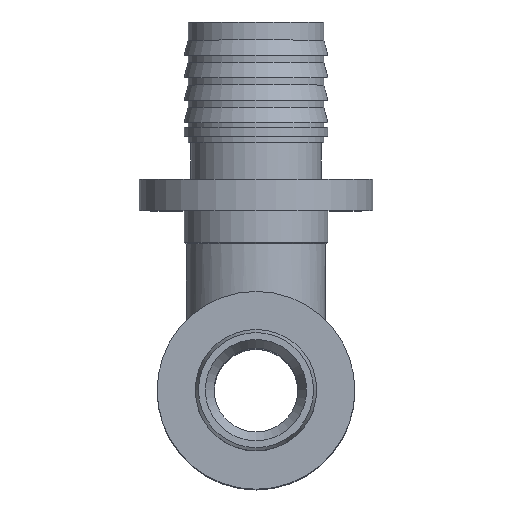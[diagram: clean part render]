
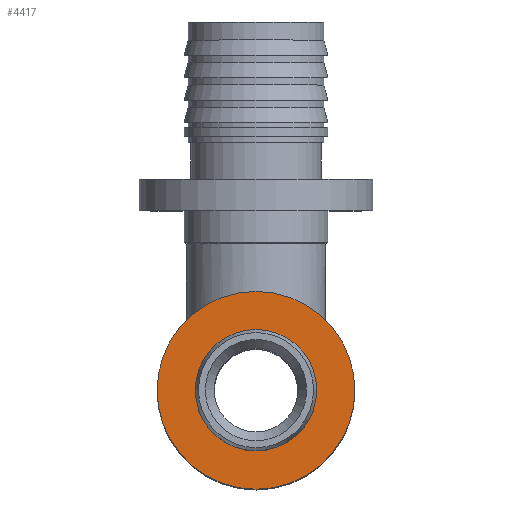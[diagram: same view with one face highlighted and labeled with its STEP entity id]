
A CAD part, top view. The second image highlights one B-rep face of the part: STEP entity #4417.
In plain terms, the highlighted planar face has unit normal (0, 0, 1).
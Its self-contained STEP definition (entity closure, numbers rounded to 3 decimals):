
#69=FACE_BOUND('',#1108,.T.);
#233=CIRCLE('',#4744,11.);
#234=CIRCLE('',#4745,11.);
#235=CIRCLE('',#4747,6.4);
#236=CIRCLE('',#4748,6.4);
#835=FACE_OUTER_BOUND('',#1107,.T.);
#1107=EDGE_LOOP('',(#3941,#3942));
#1108=EDGE_LOOP('',(#3943,#3944));
#2082=VERTEX_POINT('',#9742);
#2083=VERTEX_POINT('',#9743);
#2084=VERTEX_POINT('',#9748);
#2085=VERTEX_POINT('',#9749);
#2722=EDGE_CURVE('',#2082,#2083,#233,.T.);
#2723=EDGE_CURVE('',#2083,#2082,#234,.T.);
#2725=EDGE_CURVE('',#2084,#2085,#235,.T.);
#2726=EDGE_CURVE('',#2085,#2084,#236,.T.);
#3941=ORIENTED_EDGE('',*,*,#2722,.T.);
#3942=ORIENTED_EDGE('',*,*,#2723,.T.);
#3943=ORIENTED_EDGE('',*,*,#2725,.F.);
#3944=ORIENTED_EDGE('',*,*,#2726,.F.);
#4195=PLANE('',#4746);
#4417=ADVANCED_FACE('',(#835,#69),#4195,.T.);
#4744=AXIS2_PLACEMENT_3D('',#9744,#5609,#5610);
#4745=AXIS2_PLACEMENT_3D('',#9745,#5611,#5612);
#4746=AXIS2_PLACEMENT_3D('',#9747,#5614,#5615);
#4747=AXIS2_PLACEMENT_3D('',#9750,#5616,#5617);
#4748=AXIS2_PLACEMENT_3D('',#9751,#5618,#5619);
#5609=DIRECTION('center_axis',(0.,0.,1.));
#5610=DIRECTION('ref_axis',(1.,0.,0.));
#5611=DIRECTION('center_axis',(0.,0.,1.));
#5612=DIRECTION('ref_axis',(1.,0.,0.));
#5614=DIRECTION('center_axis',(0.,0.,1.));
#5615=DIRECTION('ref_axis',(1.,0.,0.));
#5616=DIRECTION('center_axis',(0.,0.,1.));
#5617=DIRECTION('ref_axis',(1.,0.,0.));
#5618=DIRECTION('center_axis',(0.,0.,1.));
#5619=DIRECTION('ref_axis',(1.,0.,0.));
#9742=CARTESIAN_POINT('',(0.,-11.,64.5));
#9743=CARTESIAN_POINT('',(0.,11.,64.5));
#9744=CARTESIAN_POINT('Origin',(0.,0.,64.5));
#9745=CARTESIAN_POINT('Origin',(0.,0.,64.5));
#9747=CARTESIAN_POINT('Origin',(0.,-6.4,64.5));
#9748=CARTESIAN_POINT('',(0.,-6.4,64.5));
#9749=CARTESIAN_POINT('',(0.,6.4,64.5));
#9750=CARTESIAN_POINT('Origin',(0.,0.,64.5));
#9751=CARTESIAN_POINT('Origin',(0.,0.,64.5));
